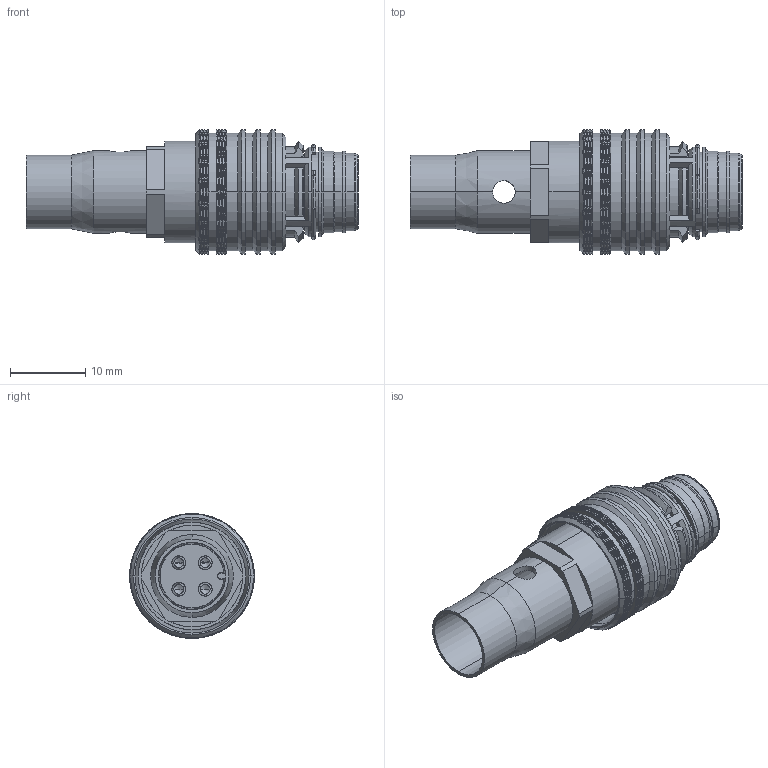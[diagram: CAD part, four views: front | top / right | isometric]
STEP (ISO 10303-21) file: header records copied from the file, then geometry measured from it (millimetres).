
FILE_DESCRIPTION((''),'2;1');
FILE_NAME('216D-04MO1_C_1_ASM','2026-04-27T',('fros.liao'),(''),'CREO PARAMETRIC BY PTC INC, 2018360','CREO PARAMETRIC BY PTC INC, 2018360','');
FILE_SCHEMA(('CONFIG_CONTROL_DESIGN'));
Products named in the file (10): BASE_1; HSG_1; PIN_1; LINK_1; LOCK_1; OUTSHELL_1; LOCK1_1; GNDSHEL_1; ORING1_1; 216D-04MO1_C_1_ASM
Assembly tree (12 placements, depth 2):
  216D-04MO1_C_1_ASM
    BASE_1
    HSG_1
    PIN_1  x4
    LINK_1
    LOCK_1
    OUTSHELL_1
    LOCK1_1
    GNDSHEL_1
    ORING1_1
Bounding box: 44.2 x 16.6 x 16.6 mm (x, y, z)
Volume: 2794.4 mm3; surface area: 7350 mm2
Topology: 12 solids, 12 shells, 1779 faces, 4055 edges, 2314 vertices
Faces by surface type: bspline 1020, cylinder 481, plane 125, cone 95, torus 50, sphere 8
Entity records: 74516 total; most frequent: CARTESIAN_POINT 44214, ORIENTED_EDGE 7706, EDGE_CURVE 3853, DIRECTION 3485, B_SPLINE_CURVE_WITH_KNOTS 2403, VERTEX_POINT 2200, EDGE_LOOP 1735, FACE_OUTER_BOUND 1692
